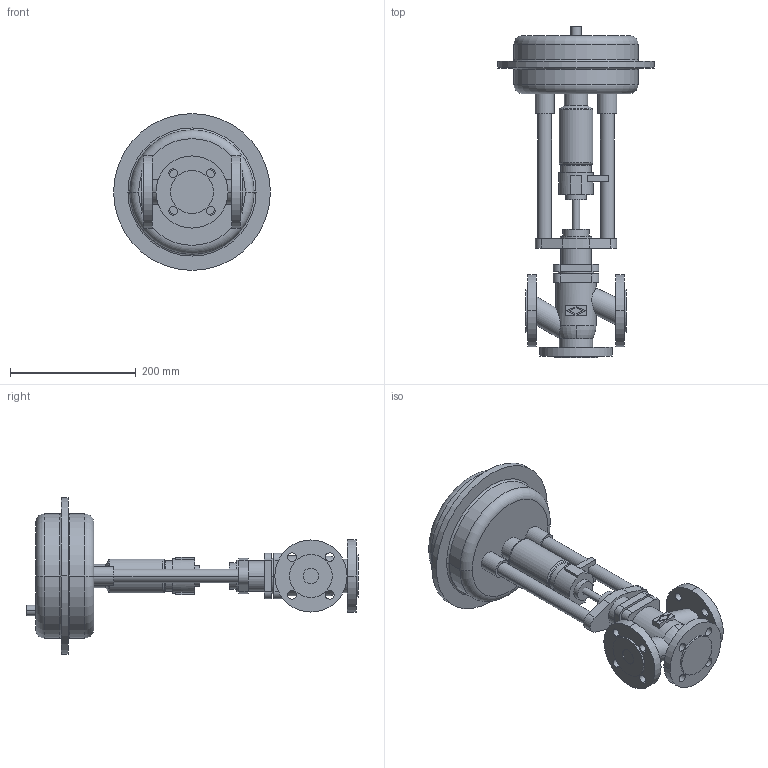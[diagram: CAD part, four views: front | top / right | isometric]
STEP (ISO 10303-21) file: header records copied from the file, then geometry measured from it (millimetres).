
FILE_DESCRIPTION(('OneSpaceDesigner STEP Export'),'2;1');
FILE_NAME('c000000403.stp','2006-09-13T12:32:23',(''),(''),'OneSpace Designer STEP processor for AP214 (Solid Model)','OneSpace Designer 13.20A 18-Aug-2005 (C) CoCreate Software GmbH','');
FILE_SCHEMA(('AUTOMOTIVE_DESIGN { 1 0 10303 214 1 1 1 1 }'));
Length unit declared in the file: millimetre
Products named in the file (2): 1; 2
Bounding box: 250 x 529 x 250 mm (x, y, z)
Volume: 4694785.3 mm3; surface area: 362051.1 mm2
Topology: 2 solids, 2 shells, 199 faces, 479 edges, 314 vertices
Faces by surface type: cylinder 96, plane 81, torus 18, cone 4
Entity records: 5329 total; most frequent: CARTESIAN_POINT 999, ORIENTED_EDGE 958, DIRECTION 798, EDGE_CURVE 479, VERTEX_POINT 314, AXIS2_PLACEMENT_3D 288, EDGE_LOOP 253, VECTOR 222
